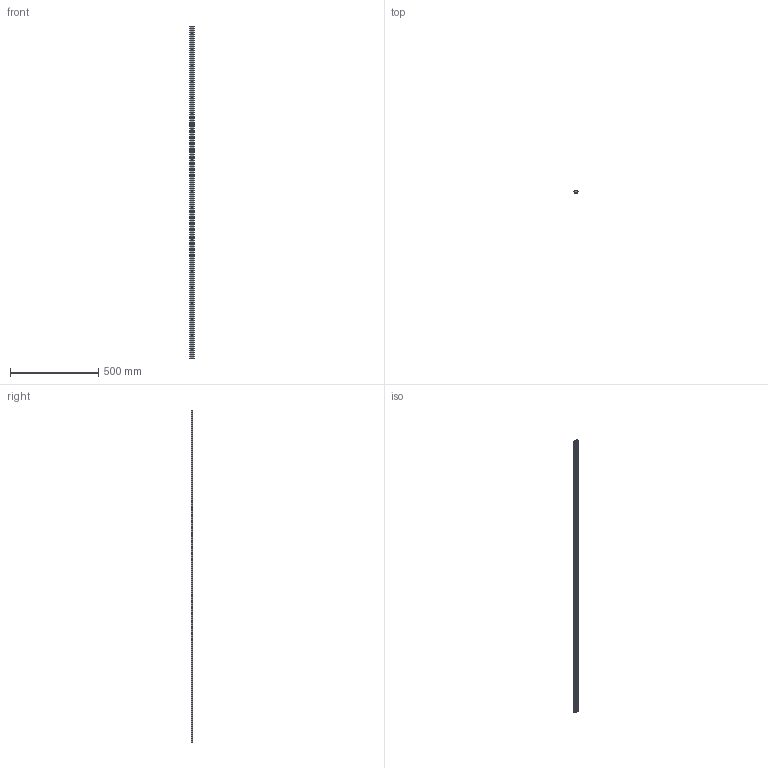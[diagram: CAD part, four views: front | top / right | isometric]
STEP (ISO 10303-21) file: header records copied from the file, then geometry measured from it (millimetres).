
FILE_DESCRIPTION(('STEP AP203'),'1');
FILE_NAME('slide_nv28l1886p3.stp','2022-07-01T04:24:52',('TraceParts'),('TraceParts S.A.'),'Spatial InterOp 3D',' ',' ');
FILE_SCHEMA(('CONFIG_CONTROL_DESIGN'));
Length unit declared in the file: millimetre
Products named in the file (1): 1
Bounding box: 28.27 x 10.41 x 1886 mm (x, y, z)
Volume: 394362.7 mm3; surface area: 152802.3 mm2
Topology: 1 solids, 1 shells, 137 faces, 342 edges, 228 vertices
Faces by surface type: cylinder 100, plane 37
Entity records: 4324 total; most frequent: DIRECTION 818, CARTESIAN_POINT 708, ORIENTED_EDGE 684, EDGE_CURVE 342, AXIS2_PLACEMENT_3D 338, VERTEX_POINT 228, EDGE_LOOP 200, CIRCLE 200
